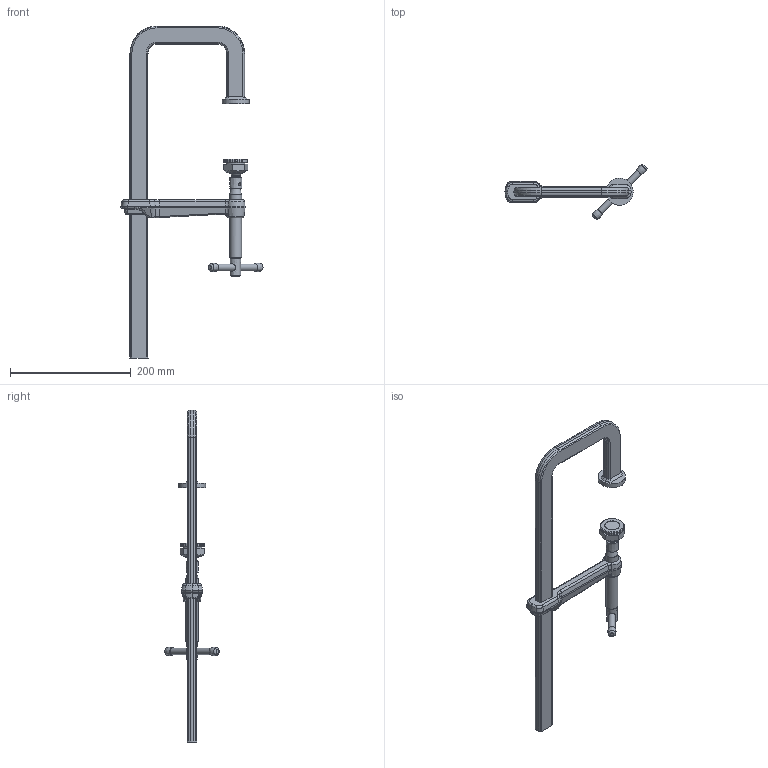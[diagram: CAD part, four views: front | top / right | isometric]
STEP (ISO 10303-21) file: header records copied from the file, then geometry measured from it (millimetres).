
FILE_DESCRIPTION( ('This file contains a STEP AP42 implementation' ,'as created by ZW3D STEP Interface translator.') ,'2;1' );
FILE_NAME( '2400J-12.stp' ,'18 9 6. 91054', (''), ('ZWCAD Software Co.'), 'Version 1.0', 'ZW3D to STEP translator', '' );
FILE_SCHEMA( ('CONFIG_CONTROL_DESIGN') );
Length unit declared in the file: millimetre
Products named in the file (10): 0; SGU30-14-10; 3100999_Festbügel einfach; 3100705b_Gleitb_kpl_SG14M einfa; 3001156b; 3100123_Spindel_kpl_SGM_einfach; 3000047_Spindel_SGM einfach; 3101541a_Druckplatte kpl 2-Lini; 3007071_Bolzen_HLZ; 3008298b
Assembly tree (8 placements, depth 4):
  0
  SGU30-14-10
    3100999_Festbügel einfach
    3100705b_Gleitb_kpl_SG14M einfa
      3001156b
      3100123_Spindel_kpl_SGM_einfach
        3000047_Spindel_SGM einfach
      3101541a_Druckplatte kpl 2-Lini
        3007071_Bolzen_HLZ
        3008298b
Bounding box: 235.33 x 91.11 x 549.98 mm (x, y, z)
Volume: 522842.1 mm3; surface area: 115939.1 mm2
Topology: 7 solids, 7 shells, 310 faces, 877 edges, 743 vertices
Faces by surface type: bspline 310
Entity records: 36912 total; most frequent: CARTESIAN_POINT 31893, ORIENTED_EDGE 1448, EDGE_CURVE 724, B_SPLINE_CURVE_WITH_KNOTS 590, VERTEX_POINT 432, EDGE_LOOP 328, FACE_OUTER_BOUND 310, ADVANCED_FACE 310
